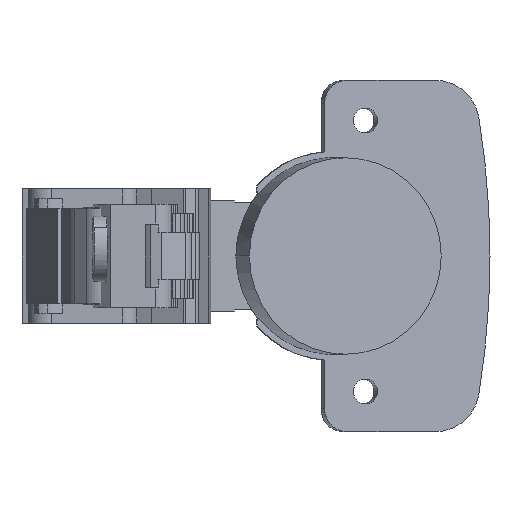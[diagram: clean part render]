
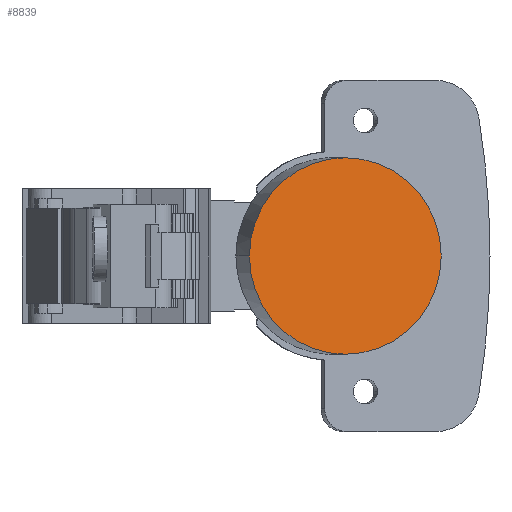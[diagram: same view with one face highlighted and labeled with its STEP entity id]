
A CAD part, left-side view. The second image highlights one B-rep face of the part: STEP entity #8839.
In plain terms, the highlighted planar face has unit normal (-0.976, -0.218, 0).
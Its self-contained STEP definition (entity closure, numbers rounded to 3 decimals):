
#516 = AXIS2_PLACEMENT_3D ( 'NONE', #7644, #8923, #628 ) ;
#621 = CARTESIAN_POINT ( 'NONE',  ( 69.029, 4.99, 0. ) ) ;
#628 = DIRECTION ( 'NONE',  ( 0.218, -0.976, 0. ) ) ;
#1258 = DIRECTION ( 'NONE',  ( -0.976, -0.218, 0. ) ) ;
#1337 = DIRECTION ( 'NONE',  ( 0.218, -0.976, 0. ) ) ;
#1391 = FACE_OUTER_BOUND ( 'NONE', #6365, .T. ) ;
#1953 = EDGE_CURVE ( 'NONE', #7802, #2408, #5863, .T. ) ;
#2379 = CARTESIAN_POINT ( 'NONE',  ( 69.029, 4.99, 0. ) ) ;
#2408 = VERTEX_POINT ( 'NONE', #4811 ) ;
#3131 = ORIENTED_EDGE ( 'NONE', *, *, #1953, .T. ) ;
#3370 = AXIS2_PLACEMENT_3D ( 'NONE', #2379, #5297, #8107 ) ;
#3508 = CIRCLE ( 'NONE', #3370, 17.4 ) ;
#3543 = AXIS2_PLACEMENT_3D ( 'NONE', #621, #1258, #1337 ) ;
#4811 = CARTESIAN_POINT ( 'NONE',  ( 72.819, -11.993, 0. ) ) ;
#4874 = PLANE ( 'NONE',  #516 ) ;
#5297 = DIRECTION ( 'NONE',  ( -0.976, -0.218, 0. ) ) ;
#5863 = CIRCLE ( 'NONE', #3543, 17.4 ) ;
#6269 = ORIENTED_EDGE ( 'NONE', *, *, #7436, .T. ) ;
#6365 = EDGE_LOOP ( 'NONE', ( #3131, #6269 ) ) ;
#6998 = CARTESIAN_POINT ( 'NONE',  ( 65.239, 21.972, 0. ) ) ;
#7436 = EDGE_CURVE ( 'NONE', #2408, #7802, #3508, .T. ) ;
#7644 = CARTESIAN_POINT ( 'NONE',  ( 69.029, 4.99, 0. ) ) ;
#7802 = VERTEX_POINT ( 'NONE', #6998 ) ;
#8107 = DIRECTION ( 'NONE',  ( 0.218, -0.976, 0. ) ) ;
#8839 = ADVANCED_FACE ( 'NONE', ( #1391 ), #4874, .T. ) ;
#8923 = DIRECTION ( 'NONE',  ( -0.976, -0.218, 0. ) ) ;
